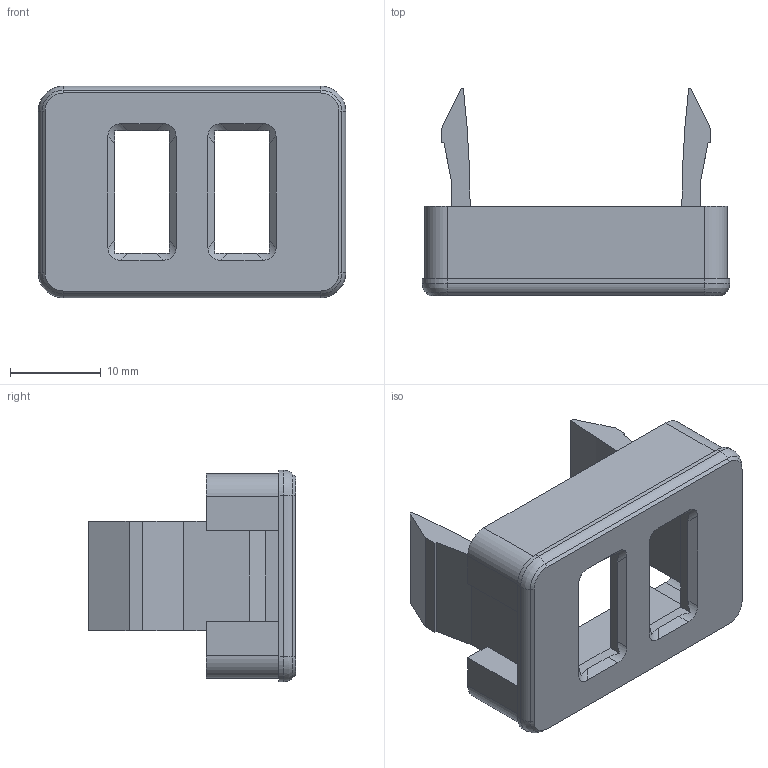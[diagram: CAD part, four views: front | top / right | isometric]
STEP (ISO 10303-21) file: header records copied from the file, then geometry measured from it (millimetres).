
FILE_DESCRIPTION(/* description */ (''),/* implementation_level */ '2;1');
FILE_NAME(/* name */ 'D:\Projects\cad_models\yaris_usb_port_cover\STEP\Toyota Yaris USB Cover v2.stp',/* time_stamp */ '2022-05-20T23:52:34-07:00',/* author */ ('Andrew'),/* organization */ (''),/* preprocessor_version */ 'ST-DEVELOPER v18.1',/* originating_system */ 'Autodesk Inventor 2021',/* authorisation */ '');
FILE_SCHEMA (('AUTOMOTIVE_DESIGN { 1 0 10303 214 3 1 1 }'));
Length unit declared in the file: millimetre
Products named in the file (1): Toyota Yaris USB Cover v2
Bounding box: 33.85 x 22.85 x 23.3 mm (x, y, z)
Volume: 3213.2 mm3; surface area: 5409.7 mm2
Topology: 5 solids, 5 shells, 125 faces, 326 edges, 212 vertices
Faces by surface type: plane 91, cylinder 26, bspline 4, cone 4
Entity records: 3861 total; most frequent: CARTESIAN_POINT 696, ORIENTED_EDGE 652, DIRECTION 638, EDGE_CURVE 326, LINE 258, VECTOR 258, VERTEX_POINT 212, AXIS2_PLACEMENT_3D 190
